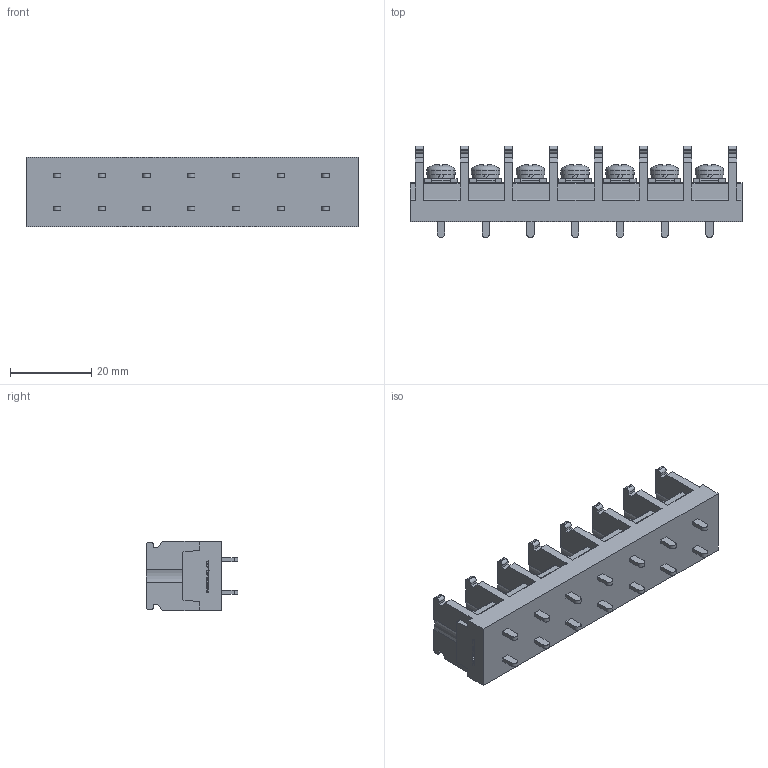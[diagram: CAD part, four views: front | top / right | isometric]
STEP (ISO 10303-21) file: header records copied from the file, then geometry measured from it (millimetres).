
FILE_DESCRIPTION(/* description */ ('Alibre Inc.'),/* implementation_level */ '2;1');
FILE_NAME(/* name */ 'export0',/* time_stamp */ '2015-10-19T19:43:18+09:00',/* author */ (''),/* organization */ (''),/* preprocessor_version */ 'ST-DEVELOPER v14',/* originating_system */ 'Alibre',/* authorisation */ '');
FILE_SCHEMA (('CONFIG_CONTROL_DESIGN'));
Length unit declared in the file: centimetre
Products named in the file (1): ID_1
Bounding box: 81.6 x 22.5 x 17 mm (x, y, z)
Volume: 15448.1 mm3; surface area: 8890.4 mm2
Topology: 1 solids, 1 shells, 968 faces, 2673 edges, 1775 vertices
Faces by surface type: plane 682, cylinder 133, bspline 104, cone 28, torus 14, sphere 7
Full cylindrical faces by diameter (mm): 4 x7, 6.5 x7, 7 x7
Entity records: 29856 total; most frequent: CARTESIAN_POINT 6467, ORIENTED_EDGE 5248, DIRECTION 3837, EDGE_CURVE 2624, VECTOR 1875, LINE 1875, VERTEX_POINT 1754, AXIS2_PLACEMENT_3D 1310
